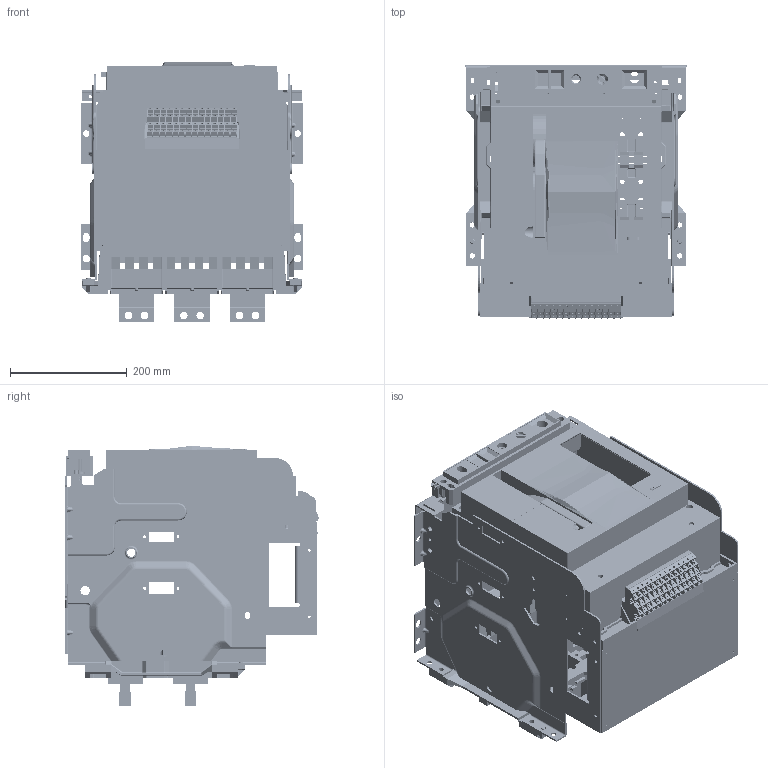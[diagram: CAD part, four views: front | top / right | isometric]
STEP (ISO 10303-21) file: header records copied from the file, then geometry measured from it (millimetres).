
FILE_DESCRIPTION((''),'2;1');
FILE_NAME('NA8G-2500-DO-2500-3P_ASM','2020-05-12T16:37:56',('lcc'),(''),'CREO PARAMETRIC BY PTC INC, 2018020','CREO PARAMETRIC BY PTC INC, 2018020','');
FILE_SCHEMA(('CONFIG_CONTROL_DESIGN','SHAPE_APPEARANCE_LAYERS_GROUPS'));
Products named in the file (20): 8-024-490; 8-050-238; 8-050-239; 8ZTD-300-019; 8-300-089; DW45-2000-DIJIA-3P; 8-060-MIANBAN-11; 8ZTD-580-217-1; 8-253-290; 8-253-289; 8-253-034; 8-253-309; 8ZTD-300-279; 8ZTD-064-137; 8ZTD-024-634; 8ZTD-860-699; 8ZTD-227-004; 8ZTD-235-048; 8ZTD-860-049-2; NA8G-2500-DO-2500-3P_ASM
Assembly tree (37 placements, depth 2):
  NA8G-2500-DO-2500-3P_ASM
    8-024-490
    8-050-238
    8-050-239
    8ZTD-300-019
    8-300-089
    DW45-2000-DIJIA-3P
    8-060-MIANBAN-11
    8ZTD-580-217-1  x6
    8-253-290
    8-253-289
    8-253-034
    8-253-309
    8ZTD-300-279
    8ZTD-064-137
    8ZTD-024-634  x14
    8ZTD-860-699
    8ZTD-227-004
    8ZTD-235-048
    8ZTD-860-049-2
Bounding box: 381 x 434.04 x 446 mm (x, y, z)
Volume: 5448485.4 mm3; surface area: 2873001.5 mm2
Topology: 36 solids, 45 shells, 8587 faces, 23967 edges, 15398 vertices
Faces by surface type: plane 6029, cylinder 1898, bspline 280, torus 177, sphere 105, cone 98
Entity records: 229045 total; most frequent: CARTESIAN_POINT 49399, ORIENTED_EDGE 33768, DIRECTION 31636, EDGE_CURVE 16915, VECTOR 12572, LINE 12572, VERTEX_POINT 10788, AXIS2_PLACEMENT_3D 9532
